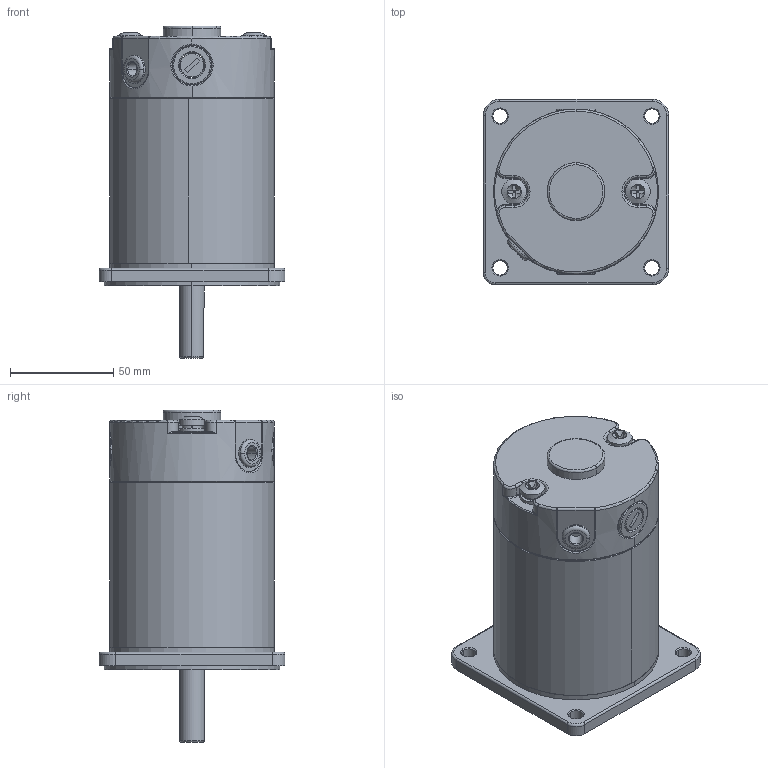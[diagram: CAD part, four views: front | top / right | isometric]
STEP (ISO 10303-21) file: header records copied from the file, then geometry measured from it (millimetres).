
FILE_DESCRIPTION (( 'STEP AP203' ), '1' );
FILE_NAME ('90嫖萇儂99儂褲.STEP', '2021-07-17T08:25:57', ( '' ), ( '' ), 'SwSTEP 2.0', 'SolidWorks 2021', '' );
FILE_SCHEMA (( 'CONFIG_CONTROL_DESIGN' ));
Length unit declared in the file: millimetre
Products named in the file (7): QIGAI_1; 90嫖萇儂99儂褲; TANDIAN_2; PENGDIAN_2; LUDING_2; JIKE-99; HOUGAI-80-1_2
Assembly tree (9 placements, depth 2):
  90嫖萇儂99儂褲
    JIKE-99
    QIGAI_1
    LUDING_2  x2
    TANDIAN_2  x2
    PENGDIAN_2  x2
    HOUGAI-80-1_2
Bounding box: 90 x 90 x 161 mm (x, y, z)
Volume: 190351.5 mm3; surface area: 93411.1 mm2
Topology: 14 solids, 14 shells, 380 faces, 875 edges, 535 vertices
Faces by surface type: cylinder 140, plane 100, cone 76, torus 41, bspline 23
Entity records: 12867 total; most frequent: CARTESIAN_POINT 4868, DIRECTION 1572, ORIENTED_EDGE 1456, EDGE_CURVE 728, AXIS2_PLACEMENT_3D 642, VERTEX_POINT 448, EDGE_LOOP 356, CIRCLE 335
